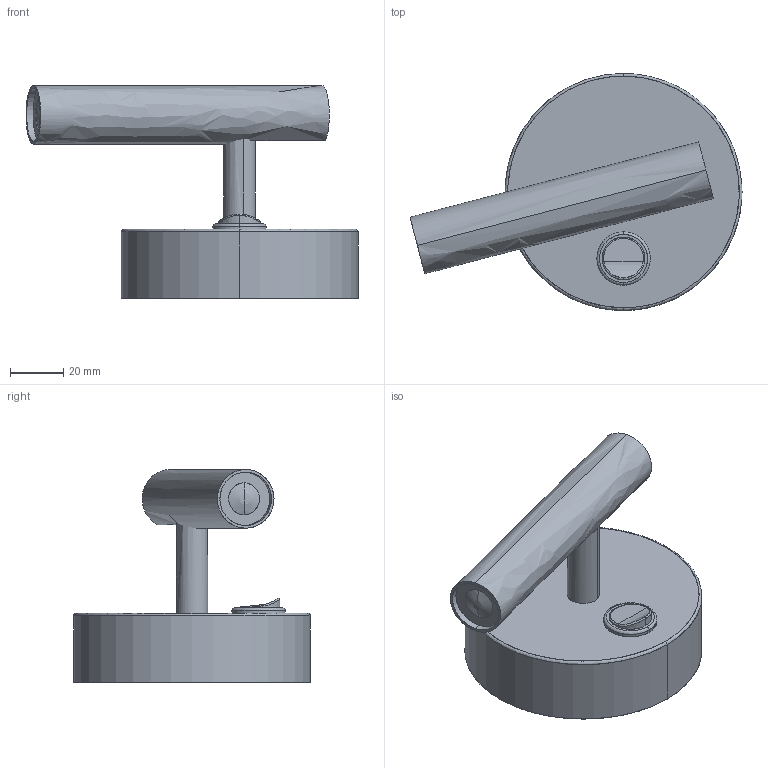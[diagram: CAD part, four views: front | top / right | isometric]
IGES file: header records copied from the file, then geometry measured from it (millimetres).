
Start section: SolidWorks IGES file using analytic representation for surfaces
Global section: file name: C:\Users\Deptecnico\Desktop\3D-MODELOS WEB\4419_Flat.IGS; native system: SolidWorks 2015; preprocessor: SolidWorks 2015; author: Deptecnico; date: 171127.114748; units: millimetre
Bounding box: 124.69 x 89 x 79.96 mm (x, y, z)
Surface area: 45340.9 mm2 (no closed solid volume)
Topology: 0 solids, 0 shells, 98 faces, 1893 edges, 1890 vertices
Faces by surface type: bspline 51, revolution 47
